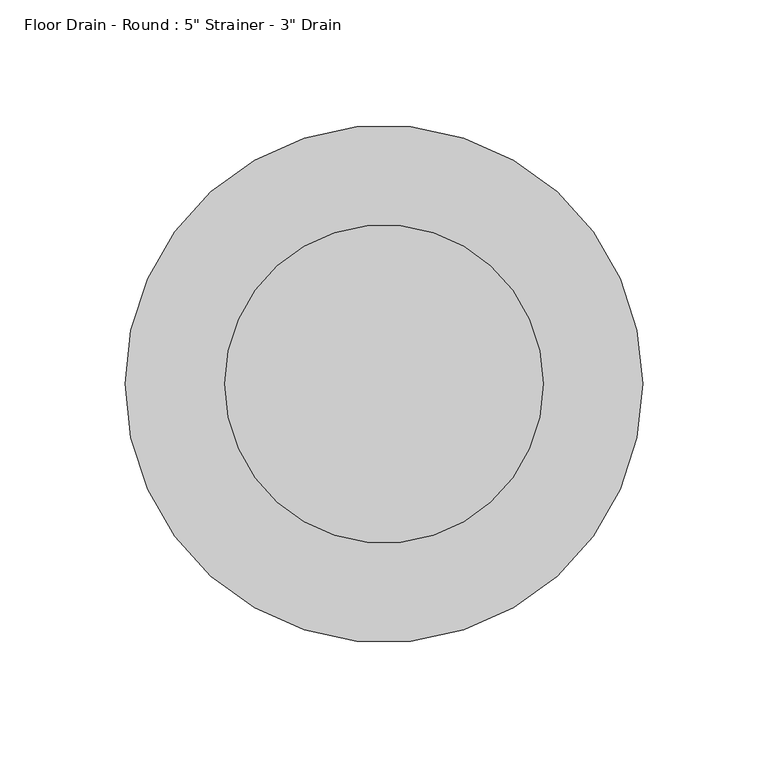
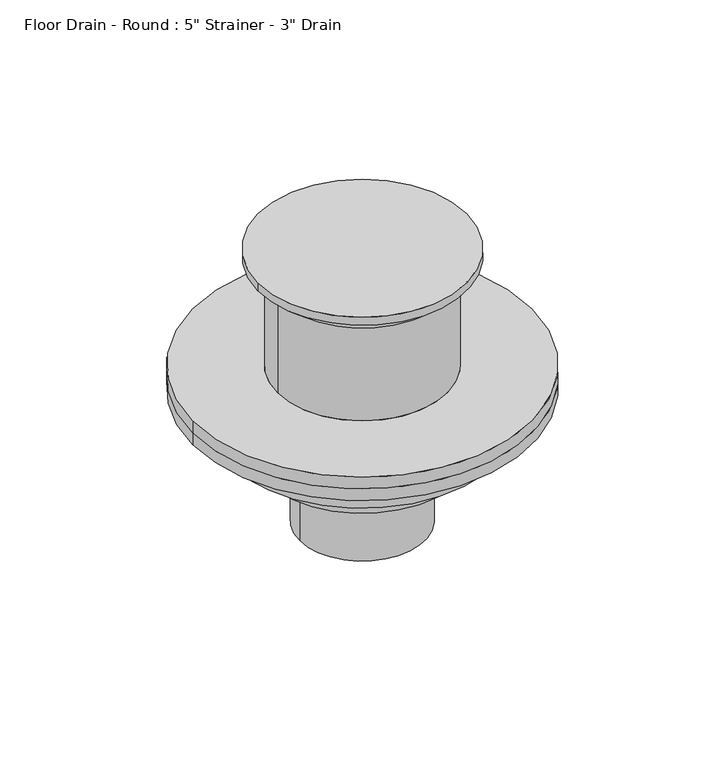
"""IFC4 building model written with IfcOpenShell, lengths in millimetres: flow terminal geometry."""

from ifc_helpers import new_model, si_unit, frame, origin, place, context, project, spatial, polyline, circle_curve, source, transform, mapped, element, save
from ifc_brep_helpers import plane_surface, cylinder_surface, revolved_surface, advanced_brep


def flow_terminal_9ac9a333(model_context):
    return source(origin(), model_context, "Body", "AdvancedBrep", [
        advanced_brep(
        [(103.1875, 0.0, -74.93), (-103.1875, 0.0, -74.93), (-51.59375, 0.0, -74.93), (51.59375, 0.0, -74.93), (103.1875, 0.0, -82.55), (-103.1875, 0.0, -82.55), (51.59375, 0.0, -15.24), (-51.59375, 0.0, -15.24), (-63.5, 0.0, -5.08), (63.5, 0.0, -5.08), (63.5, 0.0, 0.0), (-63.5, 0.0, 0.0)],
        [
            (0, 1, circle_curve(frame((0.0, 0.0, -74.93), z_axis=(0.0, 0.0, 1.0), x_axis=(-1.0, 0.0, 0.0)), 103.1875)),
            (1, 0, circle_curve(frame((0.0, 0.0, -74.93), z_axis=(0.0, 0.0, 1.0), x_axis=(-1.0, 0.0, 0.0)), 103.1875)),
            (2, 3, circle_curve(frame((0.0, 0.0, -74.93), z_axis=(0.0, 0.0, -1.0), x_axis=(-1.0, 0.0, 0.0)), 51.59375)),
            (3, 2, circle_curve(frame((0.0, 0.0, -74.93), z_axis=(0.0, 0.0, -1.0), x_axis=(-1.0, 0.0, 0.0)), 51.59375)),
            (4, 5, circle_curve(frame((0.0, 0.0, -82.55), z_axis=(0.0, 0.0, -1.0), x_axis=(-1.0, 0.0, 0.0)), 103.1875)),
            (5, 4, circle_curve(frame((0.0, 0.0, -82.55), z_axis=(0.0, 0.0, -1.0), x_axis=(-1.0, 0.0, 0.0)), 103.1875)),
            (0, 4),
            (5, 1),
            (6, 3),
            (2, 7),
            (7, 6, circle_curve(frame((0.0, 0.0, -15.24), z_axis=(0.0, 0.0, -1.0), x_axis=(-1.0, 0.0, 0.0)), 51.59375)),
            (6, 7, circle_curve(frame((0.0, 0.0, -15.24), z_axis=(0.0, 0.0, -1.0), x_axis=(-1.0, 0.0, 0.0)), 51.59375)),
            (7, 8),
            (8, 9, circle_curve(frame((0.0, 0.0, -5.08), z_axis=(0.0, 0.0, -1.0), x_axis=(-1.0, 0.0, 0.0)), 63.5)),
            (9, 6),
            (9, 8, circle_curve(frame((0.0, 0.0, -5.08), z_axis=(0.0, 0.0, -1.0), x_axis=(-1.0, 0.0, 0.0)), 63.5)),
            (10, 11, circle_curve(frame((0.0, 0.0, 0.0), z_axis=(0.0, 0.0, 1.0), x_axis=(-1.0, 0.0, 0.0)), 63.5)),
            (11, 10, circle_curve(frame((0.0, 0.0, 0.0), z_axis=(0.0, 0.0, 1.0), x_axis=(-1.0, 0.0, 0.0)), 63.5)),
            (10, 9),
            (8, 11),
        ],
        [
            plane_surface(frame((-103.1875, 0.0, -74.93), z_axis=(0.0, 0.0, 1.0), x_axis=(0.0, -1.0, 0.0))),
            plane_surface(frame((-103.1875, 0.0, -82.55), z_axis=(0.0, 0.0, -1.0), x_axis=(0.0, 1.0, 0.0))),
            cylinder_surface(frame((0.0, 0.0, -82.55), z_axis=(0.0, 0.0, 1.0), x_axis=(-1.0, 0.0, 0.0)), 103.1875),
            cylinder_surface(frame((0.0, 0.0, -74.93), z_axis=(0.0, 0.0, 1.0), x_axis=(-1.0, 0.0, 0.0)), 51.59375),
            revolved_surface(polyline([(-63.5, 0.0, -5.08), (-51.59375, 0.0, -15.24)]), (0.0, 0.0, 44.45), (0.0, 0.0, -1.0)),
            plane_surface(frame((-63.5, 0.0, 0.0), z_axis=(0.0, 0.0, 1.0), x_axis=(0.0, -1.0, 0.0))),
            cylinder_surface(frame((0.0, 0.0, -5.08), z_axis=(0.0, 0.0, 1.0), x_axis=(-1.0, 0.0, 0.0)), 63.5),
        ],
        [
            (0, [[1, 2], [3, 4]]),
            (1, [[5, 6]]),
            (2, [[-1, 7, -6, 8]]),
            (2, [[-2, -8, -5, -7]]),
            (3, [[9, -3, 10, 11]]),
            (3, [[-9, 12, -10, -4]]),
            (4, [[13, 14, 15, -11]]),
            (4, [[-13, -12, -15, 16]]),
            (5, [[17, 18]]),
            (6, [[-17, 19, -14, 20]]),
            (6, [[-18, -20, -16, -19]]),
        ],
    ),
        advanced_brep(
        [(38.1, 0.0, -174.625), (-38.1, 0.0, -174.625), (-38.1, 0.0, -128.5875), (38.1, 0.0, -128.5875), (59.7958333, 0.0, -128.5875), (-59.7958333, 0.0, -128.5875), (-59.7958333, 0.0, -110.1725), (59.7958333, 0.0, -110.1725), (81.4916667, 0.0, -110.1725), (-81.4916667, 0.0, -110.1725), (-81.4916667, 0.0, -90.17), (81.4916667, 0.0, -90.17), (103.1875, 0.0, -82.55), (-103.1875, 0.0, -82.55), (103.1875, 0.0, -90.17), (-103.1875, 0.0, -90.17)],
        [
            (0, 1, circle_curve(frame((0.0, 0.0, -174.625), z_axis=(0.0, 0.0, -1.0), x_axis=(-1.0, 0.0, 0.0)), 38.1)),
            (1, 0, circle_curve(frame((0.0, 0.0, -174.625), z_axis=(0.0, 0.0, -1.0), x_axis=(-1.0, 0.0, 0.0)), 38.1)),
            (1, 2),
            (2, 3, circle_curve(frame((0.0, 0.0, -128.5875), z_axis=(0.0, 0.0, -1.0), x_axis=(-1.0, 0.0, 0.0)), 38.1)),
            (3, 0),
            (3, 2, circle_curve(frame((0.0, 0.0, -128.5875), z_axis=(0.0, 0.0, -1.0), x_axis=(-1.0, 0.0, 0.0)), 38.1)),
            (4, 5, circle_curve(frame((0.0, 0.0, -128.5875), z_axis=(0.0, 0.0, -1.0), x_axis=(-1.0, 0.0, 0.0)), 59.7958333)),
            (5, 4, circle_curve(frame((0.0, 0.0, -128.5875), z_axis=(0.0, 0.0, -1.0), x_axis=(-1.0, 0.0, 0.0)), 59.7958333)),
            (5, 6),
            (6, 7, circle_curve(frame((0.0, 0.0, -110.1725), z_axis=(0.0, 0.0, -1.0), x_axis=(-1.0, 0.0, 0.0)), 59.7958333)),
            (7, 4),
            (7, 6, circle_curve(frame((0.0, 0.0, -110.1725), z_axis=(0.0, 0.0, -1.0), x_axis=(-1.0, 0.0, 0.0)), 59.7958333)),
            (8, 9, circle_curve(frame((0.0, 0.0, -110.1725), z_axis=(0.0, 0.0, -1.0), x_axis=(-1.0, 0.0, 0.0)), 81.4916667)),
            (9, 8, circle_curve(frame((0.0, 0.0, -110.1725), z_axis=(0.0, 0.0, -1.0), x_axis=(-1.0, 0.0, 0.0)), 81.4916667)),
            (9, 10),
            (10, 11, circle_curve(frame((0.0, 0.0, -90.17), z_axis=(0.0, 0.0, -1.0), x_axis=(-1.0, 0.0, 0.0)), 81.4916667)),
            (11, 8),
            (11, 10, circle_curve(frame((0.0, 0.0, -90.17), z_axis=(0.0, 0.0, -1.0), x_axis=(-1.0, 0.0, 0.0)), 81.4916667)),
            (12, 13, circle_curve(frame((0.0, 0.0, -82.55), z_axis=(0.0, 0.0, 1.0), x_axis=(-1.0, 0.0, 0.0)), 103.1875)),
            (13, 12, circle_curve(frame((0.0, 0.0, -82.55), z_axis=(0.0, 0.0, 1.0), x_axis=(-1.0, 0.0, 0.0)), 103.1875)),
            (14, 15, circle_curve(frame((0.0, 0.0, -90.17), z_axis=(0.0, 0.0, -1.0), x_axis=(-1.0, 0.0, 0.0)), 103.1875)),
            (15, 14, circle_curve(frame((0.0, 0.0, -90.17), z_axis=(0.0, 0.0, -1.0), x_axis=(-1.0, 0.0, 0.0)), 103.1875)),
            (12, 14),
            (15, 13),
        ],
        [
            plane_surface(frame((-38.1, 0.0, -174.625), z_axis=(0.0, 0.0, -1.0), x_axis=(0.0, 1.0, 0.0))),
            cylinder_surface(frame((0.0, 0.0, -174.625), z_axis=(0.0, 0.0, 1.0), x_axis=(-1.0, 0.0, 0.0)), 38.1),
            plane_surface(frame((-59.7958333, 0.0, -128.5875), z_axis=(0.0, 0.0, -1.0), x_axis=(0.0, 1.0, 0.0))),
            cylinder_surface(frame((0.0, 0.0, -128.5875), z_axis=(0.0, 0.0, 1.0), x_axis=(-1.0, 0.0, 0.0)), 59.7958333),
            plane_surface(frame((-81.4916667, 0.0, -110.1725), z_axis=(0.0, 0.0, -1.0), x_axis=(0.0, 1.0, 0.0))),
            cylinder_surface(frame((0.0, 0.0, -110.1725), z_axis=(0.0, 0.0, 1.0), x_axis=(-1.0, 0.0, 0.0)), 81.4916667),
            plane_surface(frame((-103.1875, 0.0, -82.55), z_axis=(0.0, 0.0, 1.0), x_axis=(0.0, -1.0, 0.0))),
            plane_surface(frame((-103.1875, 0.0, -90.17), z_axis=(0.0, 0.0, -1.0), x_axis=(0.0, 1.0, 0.0))),
            cylinder_surface(frame((0.0, 0.0, -90.17), z_axis=(0.0, 0.0, 1.0), x_axis=(-1.0, 0.0, 0.0)), 103.1875),
        ],
        [
            (0, [[1, 2]]),
            (1, [[-2, 3, 4, 5]]),
            (1, [[-1, -5, 6, -3]]),
            (2, [[7, 8], [-4, -6]]),
            (3, [[-8, 9, 10, 11]]),
            (3, [[-7, -11, 12, -9]]),
            (4, [[13, 14], [-10, -12]]),
            (5, [[-14, 15, 16, 17]]),
            (5, [[-13, -17, 18, -15]]),
            (6, [[19, 20]]),
            (7, [[21, 22], [-16, -18]]),
            (8, [[-19, 23, -22, 24]]),
            (8, [[-20, -24, -21, -23]]),
        ],
    ),
    ])


if __name__ == "__main__":
    model = new_model("IFC4")
    model_context = context("Model", 3, world=origin())
    ifc_project = project(units=[si_unit("LENGTHUNIT", "METRE", prefix="MILLI")], contexts=[model_context])
    site = spatial("IfcSite", under=ifc_project)
    building = spatial("IfcBuilding", under=site)
    placement = place(None, origin())
    flow_terminal_shape = flow_terminal_9ac9a333(model_context)
    element("IfcFlowTerminal", 1, ObjectType="Floor Drain - Round : 5\" Strainer - 3\" Drain", at=placement, inside=building, context=model_context, shape_type="MappedRepresentation", body=[
        mapped(flow_terminal_shape, transform((0.0, 0.0, 0.0), x_axis=(1.0, 0.0, 0.0), y_axis=(0.0, 1.0, 0.0), z_axis=(0.0, 0.0, 1.0))),
    ])
    save(model, "model.ifc")
